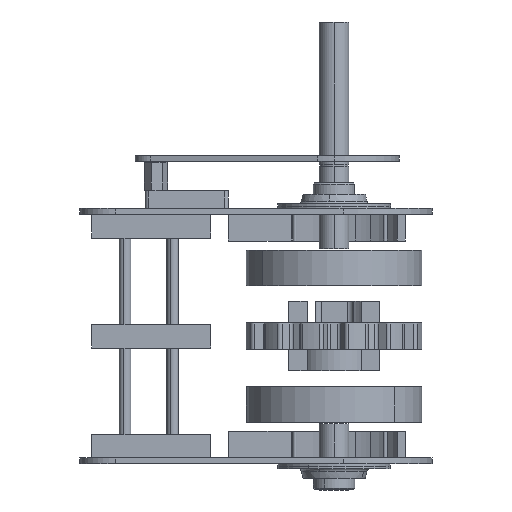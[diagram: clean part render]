
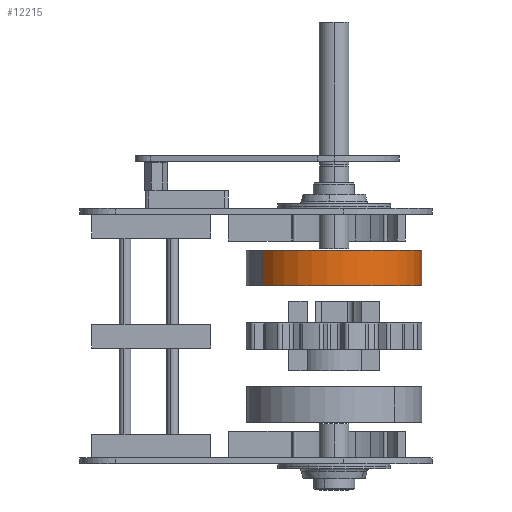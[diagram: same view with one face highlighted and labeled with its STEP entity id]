
A CAD part, front view. The second image highlights one B-rep face of the part: STEP entity #12215.
In plain terms, the highlighted cylindrical face has radius 74 mm (diameter 148 mm), a partial arc.
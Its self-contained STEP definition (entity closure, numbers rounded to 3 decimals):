
#719 = EDGE_CURVE ( 'NONE', #9803, #2766, #7950, .T. ) ;
#1431 = CARTESIAN_POINT ( 'NONE',  ( -82.5, -82.5, -35. ) ) ;
#1609 = ORIENTED_EDGE ( 'NONE', *, *, #8462, .F. ) ;
#2766 = VERTEX_POINT ( 'NONE', #2797 ) ;
#2797 = CARTESIAN_POINT ( 'NONE',  ( -142.699, -125.536, -65. ) ) ;
#2883 = DIRECTION ( 'NONE',  ( -0.813, -0.582, 0. ) ) ;
#2980 = EDGE_LOOP ( 'NONE', ( #1609, #11018, #10794, #16845 ) ) ;
#3241 = CIRCLE ( 'NONE', #13958, 74. ) ;
#3317 = CARTESIAN_POINT ( 'NONE',  ( -22.301, -39.464, -35. ) ) ;
#4049 = CARTESIAN_POINT ( 'NONE',  ( -142.699, -125.536, -35. ) ) ;
#5555 = CARTESIAN_POINT ( 'NONE',  ( -82.5, -82.5, -35. ) ) ;
#5629 = FACE_OUTER_BOUND ( 'NONE', #2980, .T. ) ;
#5788 = VECTOR ( 'NONE', #14787, 1000. ) ;
#6006 = CIRCLE ( 'NONE', #9094, 74. ) ;
#6027 = DIRECTION ( 'NONE',  ( 0., 0., 1. ) ) ;
#7950 = LINE ( 'NONE', #4049, #15569 ) ;
#8462 = EDGE_CURVE ( 'NONE', #9803, #18429, #3241, .T. ) ;
#9094 = AXIS2_PLACEMENT_3D ( 'NONE', #14601, #6027, #16035 ) ;
#9587 = LINE ( 'NONE', #3317, #5788 ) ;
#9803 = VERTEX_POINT ( 'NONE', #17456 ) ;
#10794 = ORIENTED_EDGE ( 'NONE', *, *, #14715, .T. ) ;
#11018 = ORIENTED_EDGE ( 'NONE', *, *, #719, .T. ) ;
#11477 = DIRECTION ( 'NONE',  ( 0., 0., 1. ) ) ;
#11940 = VERTEX_POINT ( 'NONE', #15196 ) ;
#12215 = ADVANCED_FACE ( 'NONE', ( #5629 ), #12815, .T. ) ;
#12815 = CYLINDRICAL_SURFACE ( 'NONE', #15328, 74. ) ;
#13958 = AXIS2_PLACEMENT_3D ( 'NONE', #1431, #11477, #2883 ) ;
#14117 = DIRECTION ( 'NONE',  ( 0.813, 0.582, 0. ) ) ;
#14601 = CARTESIAN_POINT ( 'NONE',  ( -82.5, -82.5, -65. ) ) ;
#14715 = EDGE_CURVE ( 'NONE', #2766, #11940, #6006, .T. ) ;
#14787 = DIRECTION ( 'NONE',  ( 0., 0., -1. ) ) ;
#15196 = CARTESIAN_POINT ( 'NONE',  ( -22.301, -39.464, -65. ) ) ;
#15328 = AXIS2_PLACEMENT_3D ( 'NONE', #5555, #17005, #14117 ) ;
#15569 = VECTOR ( 'NONE', #18473, 1000. ) ;
#15840 = CARTESIAN_POINT ( 'NONE',  ( -22.301, -39.464, -35. ) ) ;
#16035 = DIRECTION ( 'NONE',  ( -0.813, -0.582, 0. ) ) ;
#16226 = EDGE_CURVE ( 'NONE', #18429, #11940, #9587, .T. ) ;
#16845 = ORIENTED_EDGE ( 'NONE', *, *, #16226, .F. ) ;
#17005 = DIRECTION ( 'NONE',  ( 0., 0., -1. ) ) ;
#17456 = CARTESIAN_POINT ( 'NONE',  ( -142.699, -125.536, -35. ) ) ;
#18429 = VERTEX_POINT ( 'NONE', #15840 ) ;
#18473 = DIRECTION ( 'NONE',  ( 0., 0., -1. ) ) ;
